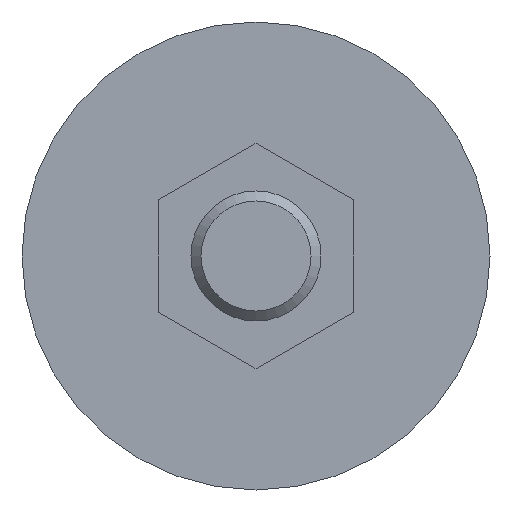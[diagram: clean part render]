
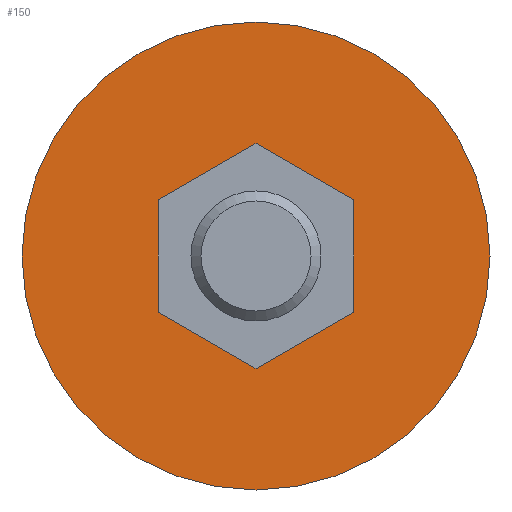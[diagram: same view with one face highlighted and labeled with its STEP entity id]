
A CAD part, front view. The second image highlights one B-rep face of the part: STEP entity #150.
In plain terms, the highlighted planar face has unit normal (0, -1, 0).
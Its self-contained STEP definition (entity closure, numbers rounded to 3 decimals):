
#150 = ADVANCED_FACE( '', ( #200, #201 ), #202, .F. );
#200 = FACE_BOUND( '', #285, .T. );
#201 = FACE_OUTER_BOUND( '', #286, .T. );
#202 = PLANE( '', #287 );
#285 = EDGE_LOOP( '', ( #391, #392, #393, #394, #395, #396 ) );
#286 = EDGE_LOOP( '', ( #397 ) );
#287 = AXIS2_PLACEMENT_3D( '', #398, #399, #400 );
#391 = ORIENTED_EDGE( '', *, *, #415, .T. );
#392 = ORIENTED_EDGE( '', *, *, #411, .T. );
#393 = ORIENTED_EDGE( '', *, *, #414, .T. );
#394 = ORIENTED_EDGE( '', *, *, #421, .T. );
#395 = ORIENTED_EDGE( '', *, *, #419, .T. );
#396 = ORIENTED_EDGE( '', *, *, #417, .T. );
#397 = ORIENTED_EDGE( '', *, *, #430, .T. );
#398 = CARTESIAN_POINT( '', ( 18., 3.8, 0. ) );
#399 = DIRECTION( '', ( 0., 1., 0. ) );
#400 = DIRECTION( '', ( 0., 0., 1. ) );
#411 = EDGE_CURVE( '', #451, #449, #452, .T. );
#414 = EDGE_CURVE( '', #449, #454, #456, .T. );
#415 = EDGE_CURVE( '', #457, #451, #458, .T. );
#417 = EDGE_CURVE( '', #460, #457, #461, .T. );
#419 = EDGE_CURVE( '', #463, #460, #464, .T. );
#421 = EDGE_CURVE( '', #454, #463, #466, .T. );
#430 = EDGE_CURVE( '', #481, #481, #482, .T. );
#449 = VERTEX_POINT( '', #507 );
#451 = VERTEX_POINT( '', #510 );
#452 = LINE( '', #511, #512 );
#454 = VERTEX_POINT( '', #515 );
#456 = LINE( '', #518, #519 );
#457 = VERTEX_POINT( '', #520 );
#458 = LINE( '', #521, #522 );
#460 = VERTEX_POINT( '', #525 );
#461 = LINE( '', #526, #527 );
#463 = VERTEX_POINT( '', #530 );
#464 = LINE( '', #531, #532 );
#466 = LINE( '', #535, #536 );
#481 = VERTEX_POINT( '', #551 );
#482 = CIRCLE( '', #552, 18. );
#507 = CARTESIAN_POINT( '', ( 0., 3.8, -8.66 ) );
#510 = CARTESIAN_POINT( '', ( 7.5, 3.8, -4.33 ) );
#511 = CARTESIAN_POINT( '', ( 7.5, 3.8, -4.33 ) );
#512 = VECTOR( '', #569, 1000. );
#515 = CARTESIAN_POINT( '', ( -7.5, 3.8, -4.33 ) );
#518 = CARTESIAN_POINT( '', ( 0., 3.8, -8.66 ) );
#519 = VECTOR( '', #572, 1000. );
#520 = CARTESIAN_POINT( '', ( 7.5, 3.8, 4.33 ) );
#521 = CARTESIAN_POINT( '', ( 7.5, 3.8, 4.33 ) );
#522 = VECTOR( '', #573, 1000. );
#525 = CARTESIAN_POINT( '', ( 0., 3.8, 8.66 ) );
#526 = CARTESIAN_POINT( '', ( 0., 3.8, 8.66 ) );
#527 = VECTOR( '', #575, 1000. );
#530 = CARTESIAN_POINT( '', ( -7.5, 3.8, 4.33 ) );
#531 = CARTESIAN_POINT( '', ( -7.5, 3.8, 4.33 ) );
#532 = VECTOR( '', #577, 1000. );
#535 = CARTESIAN_POINT( '', ( -7.5, 3.8, -4.33 ) );
#536 = VECTOR( '', #579, 1000. );
#551 = CARTESIAN_POINT( '', ( 0., 3.8, -18. ) );
#552 = AXIS2_PLACEMENT_3D( '', #601, #602, #603 );
#569 = DIRECTION( '', ( -0.866, 0., -0.5 ) );
#572 = DIRECTION( '', ( -0.866, 0., 0.5 ) );
#573 = DIRECTION( '', ( 0., 0., -1. ) );
#575 = DIRECTION( '', ( 0.866, 0., -0.5 ) );
#577 = DIRECTION( '', ( 0.866, 0., 0.5 ) );
#579 = DIRECTION( '', ( 0., 0., 1. ) );
#601 = CARTESIAN_POINT( '', ( 0., 3.8, 0. ) );
#602 = DIRECTION( '', ( 0., -1., 0. ) );
#603 = DIRECTION( '', ( 0., 0., -1. ) );
